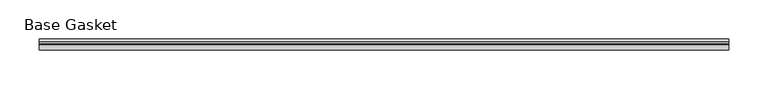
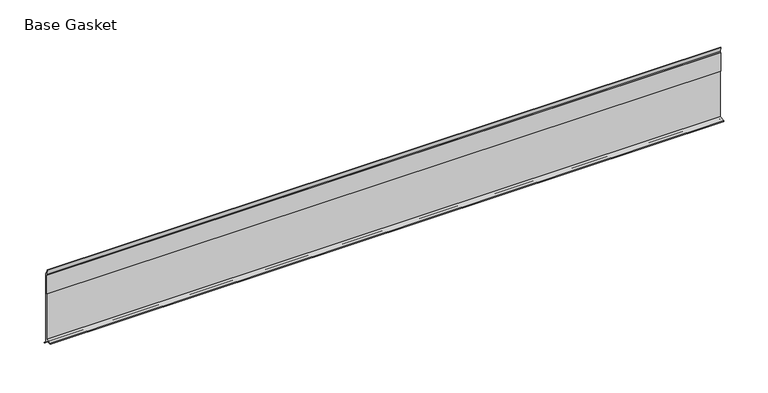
"""IFC4 building model written with IfcOpenShell, lengths in millimetres: furniture geometry, Gasket-Teknion-FHGB-AI_Healthcare-R2021 : Base Gasket."""

from ifc_helpers import new_model, si_unit, frame, origin, place, context, project, spatial, polyline, outline, extrude, source, transform, mapped, element, save


def base_gasket_d4ce0e80(model_context):
    return source(origin(), model_context, "Body", "SweptSolid", [
        extrude(outline(polyline([(3.7283812, 98.4568417), (3.7283812, 4.3498477), (7.4222115, 0.6560174), (7.8482342, 0.0), (6.8281054, 0.3520979), (2.2043812, 4.3498477), (2.1334222, 6.3818476), (-6.2405171, 6.3818476), (-6.2405171, 7.9398773), (2.2043812, 7.9398773), (2.2043812, 71.4693447), (1.4106313, 71.4693447), (1.4106313, 96.8693477), (2.2043812, 96.8693477), (2.2043812, 98.4568417), (0.6755308, 104.4162708), (0.6755308, 105.2002997), (1.1891543, 104.587663), (3.7283812, 98.4568417)])), frame((-1527.8982117, 0.0, 0.0), z_axis=(1.0, 0.0, 0.0), x_axis=(0.0, 1.0, 0.0)), (0.0, 0.0, 1.0), 882.0071795),
    ])


if __name__ == "__main__":
    model = new_model("IFC4")
    model_context = context("Model", 3, world=origin())
    ifc_project = project(units=[si_unit("LENGTHUNIT", "METRE", prefix="MILLI")], contexts=[model_context])
    site = spatial("IfcSite", under=ifc_project)
    building = spatial("IfcBuilding", under=site)
    placement = place(None, origin())
    base_gasket_shape = base_gasket_d4ce0e80(model_context)
    element("IfcFurniture", 1, ObjectType="Gasket-Teknion-FHGB-AI_Healthcare-R2021 : Base Gasket", at=placement, inside=building, context=model_context, shape_type="MappedRepresentation", body=[
        mapped(base_gasket_shape, transform((0.0, 0.0, 0.0), x_axis=(1.0, 0.0, 0.0), y_axis=(0.0, 1.0, 0.0), z_axis=(0.0, 0.0, 1.0))),
    ])
    save(model, "model.ifc")
